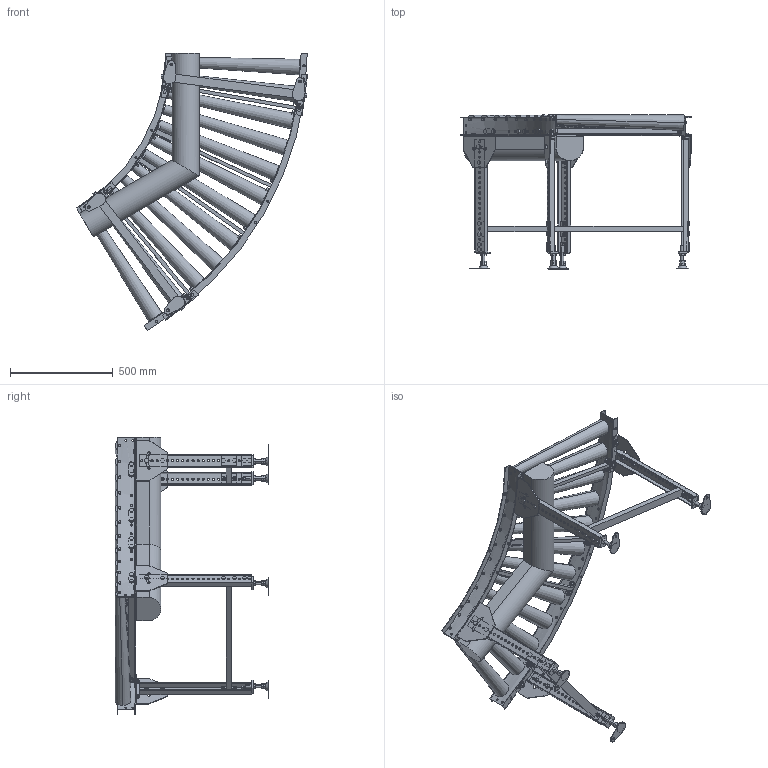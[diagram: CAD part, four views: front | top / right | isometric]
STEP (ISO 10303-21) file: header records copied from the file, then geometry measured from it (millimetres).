
FILE_DESCRIPTION (( 'STEP AP214' ), '1' );
FILE_NAME ('MCD50C9-60-630-100.STEP', '2022-08-01T07:29:02', ( '' ), ( '' ), 'SwSTEP 2.0', 'SolidWorks 2017', '' );
FILE_SCHEMA (( 'AUTOMOTIVE_DESIGN' ));
Length unit declared in the file: millimetre
Products named in the file (1): MCD50C9-60-630-100
Bounding box: 1126.07 x 750 x 1351 mm (x, y, z)
Volume: 42860434.6 mm3; surface area: 4029635.4 mm2
Topology: 19 solids, 39 shells, 2576 faces, 6166 edges, 3888 vertices
Faces by surface type: plane 1824, cylinder 720, cone 32
Entity records: 110720 total; most frequent: CARTESIAN_POINT 20850, DIRECTION 12981, ORIENTED_EDGE 12332, EDGE_CURVE 6166, AXIS2_PLACEMENT_3D 4511, VECTOR 3959, LINE 3959, VERTEX_POINT 3888
